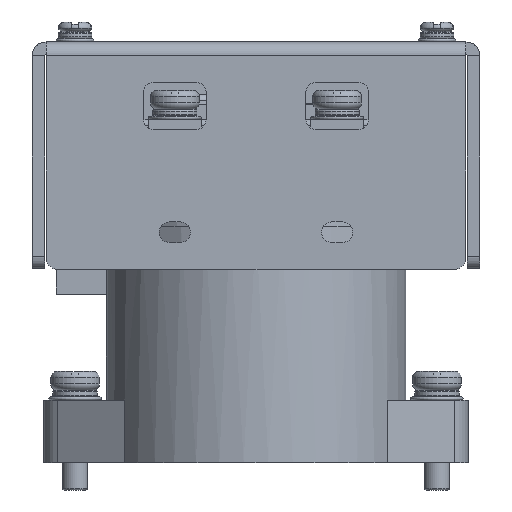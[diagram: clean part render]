
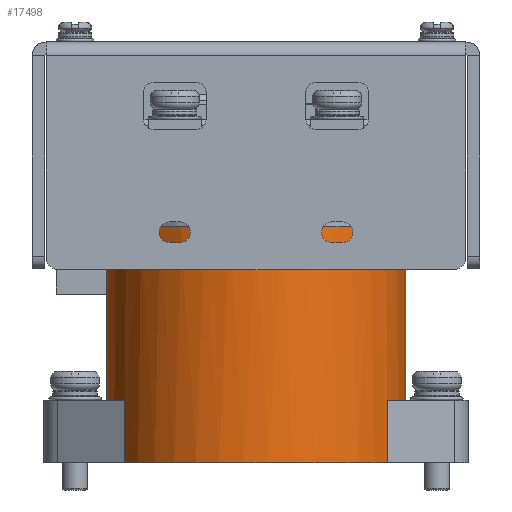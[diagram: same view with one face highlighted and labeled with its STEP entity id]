
A CAD part, front view. The second image highlights one B-rep face of the part: STEP entity #17498.
In plain terms, the highlighted cylindrical face has radius 24 mm (diameter 48 mm), a full revolution.
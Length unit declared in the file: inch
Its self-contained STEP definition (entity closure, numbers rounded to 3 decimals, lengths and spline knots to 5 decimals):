
#2338=LINE('',#31520,#3725);
#2339=LINE('',#31521,#3726);
#2340=LINE('',#31522,#3727);
#2341=LINE('',#31523,#3728);
#2342=LINE('',#31524,#3729);
#3725=VECTOR('',#24359,0.94488);
#3726=VECTOR('',#24360,0.3937);
#3727=VECTOR('',#24361,0.3937);
#3728=VECTOR('',#24362,0.3937);
#3729=VECTOR('',#24363,0.3937);
#3996=CYLINDRICAL_SURFACE('',#19336,0.94488);
#4913=FACE_OUTER_BOUND('',#5994,.T.);
#5994=EDGE_LOOP('',(#15993,#15994,#15995,#15996,#15997,#15998,#15999,#16000,
#16001,#16002,#16003,#16004));
#6129=CIRCLE('',#17758,0.94488);
#6196=CIRCLE('',#17864,0.94488);
#6197=CIRCLE('',#17865,0.94488);
#6905=CIRCLE('',#19324,0.94488);
#6907=CIRCLE('',#19329,0.94488);
#6909=CIRCLE('',#19331,0.94488);
#7170=VERTEX_POINT('',#25173);
#7171=VERTEX_POINT('',#25174);
#7253=VERTEX_POINT('',#25449);
#7254=VERTEX_POINT('',#25450);
#7255=VERTEX_POINT('',#25452);
#8590=VERTEX_POINT('',#31489);
#8592=VERTEX_POINT('',#31496);
#8594=VERTEX_POINT('',#31500);
#8595=VERTEX_POINT('',#31502);
#8598=VERTEX_POINT('',#31508);
#8942=EDGE_CURVE('',#7170,#7171,#6129,.T.);
#9056=EDGE_CURVE('',#7253,#7254,#6196,.T.);
#9057=EDGE_CURVE('',#7254,#7255,#6197,.T.);
#11064=EDGE_CURVE('',#8590,#8590,#6905,.T.);
#11069=EDGE_CURVE('',#8595,#8594,#6907,.T.);
#11073=EDGE_CURVE('',#8592,#8598,#6909,.T.);
#11078=EDGE_CURVE('',#8590,#7254,#2338,.T.);
#11079=EDGE_CURVE('',#8595,#7253,#2339,.T.);
#11080=EDGE_CURVE('',#8594,#7171,#2340,.T.);
#11081=EDGE_CURVE('',#8592,#7170,#2341,.T.);
#11082=EDGE_CURVE('',#8598,#7255,#2342,.T.);
#15993=ORIENTED_EDGE('',*,*,#11064,.T.);
#15994=ORIENTED_EDGE('',*,*,#11078,.T.);
#15995=ORIENTED_EDGE('',*,*,#9056,.F.);
#15996=ORIENTED_EDGE('',*,*,#11079,.F.);
#15997=ORIENTED_EDGE('',*,*,#11069,.T.);
#15998=ORIENTED_EDGE('',*,*,#11080,.T.);
#15999=ORIENTED_EDGE('',*,*,#8942,.F.);
#16000=ORIENTED_EDGE('',*,*,#11081,.F.);
#16001=ORIENTED_EDGE('',*,*,#11073,.T.);
#16002=ORIENTED_EDGE('',*,*,#11082,.T.);
#16003=ORIENTED_EDGE('',*,*,#9057,.F.);
#16004=ORIENTED_EDGE('',*,*,#11078,.F.);
#17498=ADVANCED_FACE('',(#4913),#3996,.T.);
#17758=AXIS2_PLACEMENT_3D('',#25175,#20016,#20017);
#17864=AXIS2_PLACEMENT_3D('',#25451,#20267,#20268);
#17865=AXIS2_PLACEMENT_3D('',#25453,#20269,#20270);
#19324=AXIS2_PLACEMENT_3D('',#31490,#24326,#24327);
#19329=AXIS2_PLACEMENT_3D('',#31503,#24339,#24340);
#19331=AXIS2_PLACEMENT_3D('',#31510,#24345,#24346);
#19336=AXIS2_PLACEMENT_3D('',#31519,#24357,#24358);
#20016=DIRECTION('center_axis',(0.,0.,-1.));
#20017=DIRECTION('ref_axis',(1.,0.,0.));
#20267=DIRECTION('center_axis',(0.,0.,-1.));
#20268=DIRECTION('ref_axis',(1.,0.,0.));
#20269=DIRECTION('center_axis',(0.,0.,-1.));
#20270=DIRECTION('ref_axis',(1.,0.,0.));
#24326=DIRECTION('center_axis',(0.,0.,-1.));
#24327=DIRECTION('ref_axis',(1.,0.,0.));
#24339=DIRECTION('center_axis',(0.,0.,1.));
#24340=DIRECTION('ref_axis',(1.,0.,0.));
#24345=DIRECTION('center_axis',(0.,0.,1.));
#24346=DIRECTION('ref_axis',(1.,0.,0.));
#24357=DIRECTION('center_axis',(0.,0.,1.));
#24358=DIRECTION('ref_axis',(1.,0.,0.));
#24359=DIRECTION('',(0.,0.,-1.));
#24360=DIRECTION('',(0.,0.,1.));
#24361=DIRECTION('',(0.,0.,1.));
#24362=DIRECTION('',(0.,0.,1.));
#24363=DIRECTION('',(0.,0.,1.));
#25173=CARTESIAN_POINT('',(0.81829,0.47244,0.3937));
#25174=CARTESIAN_POINT('',(0.82983,-0.45186,0.3937));
#25175=CARTESIAN_POINT('Origin',(0.,0.,0.3937));
#25449=CARTESIAN_POINT('',(-0.82983,-0.45186,0.3937));
#25450=CARTESIAN_POINT('',(-0.94488,0.,0.3937));
#25451=CARTESIAN_POINT('Origin',(0.,0.,0.3937));
#25452=CARTESIAN_POINT('',(-0.81829,0.47244,0.3937));
#25453=CARTESIAN_POINT('Origin',(0.,0.,0.3937));
#31489=CARTESIAN_POINT('',(-0.94488,0.,1.48819));
#31490=CARTESIAN_POINT('Origin',(0.,0.,1.48819));
#31496=CARTESIAN_POINT('',(0.81829,0.47244,0.));
#31500=CARTESIAN_POINT('',(0.82983,-0.45186,0.));
#31502=CARTESIAN_POINT('',(-0.82983,-0.45186,0.));
#31503=CARTESIAN_POINT('Origin',(0.,0.,0.));
#31508=CARTESIAN_POINT('',(-0.81829,0.47244,0.));
#31510=CARTESIAN_POINT('Origin',(0.,0.,0.));
#31519=CARTESIAN_POINT('Origin',(0.,0.,0.));
#31520=CARTESIAN_POINT('',(-0.94488,0.,0.));
#31521=CARTESIAN_POINT('',(-0.82983,-0.45186,0.));
#31522=CARTESIAN_POINT('',(0.82983,-0.45186,0.));
#31523=CARTESIAN_POINT('',(0.81829,0.47244,0.));
#31524=CARTESIAN_POINT('',(-0.81829,0.47244,0.));
